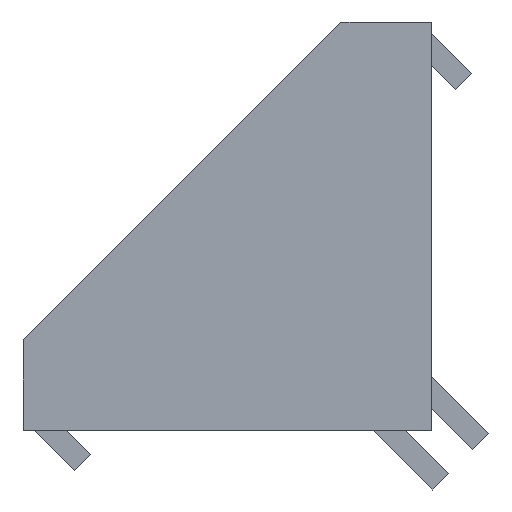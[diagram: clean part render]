
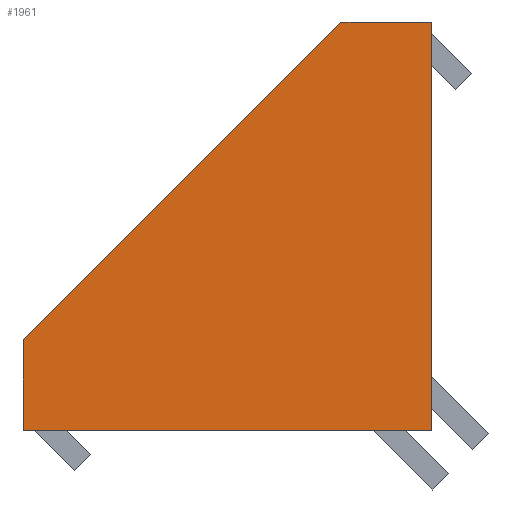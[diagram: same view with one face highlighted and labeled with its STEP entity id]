
A CAD part, left-side view. The second image highlights one B-rep face of the part: STEP entity #1961.
In plain terms, the highlighted planar face has unit normal (-1, 0, 0).
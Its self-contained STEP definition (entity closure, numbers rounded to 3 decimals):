
#19 = EDGE_CURVE ( 'NONE', #151, #783, #3142, .T. ) ;
#151 = VERTEX_POINT ( 'NONE', #1401 ) ;
#168 = CARTESIAN_POINT ( 'NONE',  ( -7.626, 13.971, 4. ) ) ;
#200 = DIRECTION ( 'NONE',  ( 0., 0., -1. ) ) ;
#260 = DIRECTION ( 'NONE',  ( 0., -1., 0. ) ) ;
#343 = EDGE_CURVE ( 'NONE', #151, #3158, #700, .T. ) ;
#417 = VERTEX_POINT ( 'NONE', #1348 ) ;
#425 = VERTEX_POINT ( 'NONE', #3082 ) ;
#477 = VECTOR ( 'NONE', #2820, 1000. ) ;
#531 = DIRECTION ( 'NONE',  ( 0., -1., 0. ) ) ;
#553 = AXIS2_PLACEMENT_3D ( 'NONE', #168, #2420, #929 ) ;
#619 = LINE ( 'NONE', #1771, #2622 ) ;
#700 = LINE ( 'NONE', #2526, #2704 ) ;
#783 = VERTEX_POINT ( 'NONE', #1378 ) ;
#929 = DIRECTION ( 'NONE',  ( 0., 1., 0. ) ) ;
#1001 = CARTESIAN_POINT ( 'NONE',  ( -7.626, 13.971, 4. ) ) ;
#1008 = EDGE_LOOP ( 'NONE', ( #1484, #2068, #2140, #1393, #3121 ) ) ;
#1021 = EDGE_CURVE ( 'NONE', #417, #425, #619, .T. ) ;
#1171 = LINE ( 'NONE', #2508, #3012 ) ;
#1348 = CARTESIAN_POINT ( 'NONE',  ( -7.626, 13.971, 0. ) ) ;
#1378 = CARTESIAN_POINT ( 'NONE',  ( -7.626, 13.971, 4. ) ) ;
#1392 = VECTOR ( 'NONE', #200, 1000. ) ;
#1393 = ORIENTED_EDGE ( 'NONE', *, *, #19, .T. ) ;
#1401 = CARTESIAN_POINT ( 'NONE',  ( -7.626, -0.032, 18. ) ) ;
#1484 = ORIENTED_EDGE ( 'NONE', *, *, #1021, .T. ) ;
#1530 = DIRECTION ( 'NONE',  ( 0., 0., -1. ) ) ;
#1771 = CARTESIAN_POINT ( 'NONE',  ( -7.626, 13.971, 0. ) ) ;
#1961 = ADVANCED_FACE ( 'NONE', ( #3106 ), #2174, .F. ) ;
#1972 = CARTESIAN_POINT ( 'NONE',  ( -7.626, 13.971, 4. ) ) ;
#2030 = EDGE_CURVE ( 'NONE', #783, #417, #2059, .T. ) ;
#2059 = LINE ( 'NONE', #1972, #1392 ) ;
#2068 = ORIENTED_EDGE ( 'NONE', *, *, #3181, .F. ) ;
#2140 = ORIENTED_EDGE ( 'NONE', *, *, #343, .F. ) ;
#2174 = PLANE ( 'NONE',  #553 ) ;
#2246 = CARTESIAN_POINT ( 'NONE',  ( -7.626, -4.029, 18. ) ) ;
#2420 = DIRECTION ( 'NONE',  ( 1., 0., 0. ) ) ;
#2508 = CARTESIAN_POINT ( 'NONE',  ( -7.626, -4.029, 4. ) ) ;
#2526 = CARTESIAN_POINT ( 'NONE',  ( -7.626, -0.032, 18. ) ) ;
#2622 = VECTOR ( 'NONE', #260, 1000. ) ;
#2704 = VECTOR ( 'NONE', #531, 1000. ) ;
#2820 = DIRECTION ( 'NONE',  ( 0., 0.707, -0.707 ) ) ;
#3012 = VECTOR ( 'NONE', #1530, 1000. ) ;
#3082 = CARTESIAN_POINT ( 'NONE',  ( -7.626, -4.029, 0. ) ) ;
#3106 = FACE_OUTER_BOUND ( 'NONE', #1008, .T. ) ;
#3121 = ORIENTED_EDGE ( 'NONE', *, *, #2030, .T. ) ;
#3142 = LINE ( 'NONE', #1001, #477 ) ;
#3158 = VERTEX_POINT ( 'NONE', #2246 ) ;
#3181 = EDGE_CURVE ( 'NONE', #3158, #425, #1171, .T. ) ;
